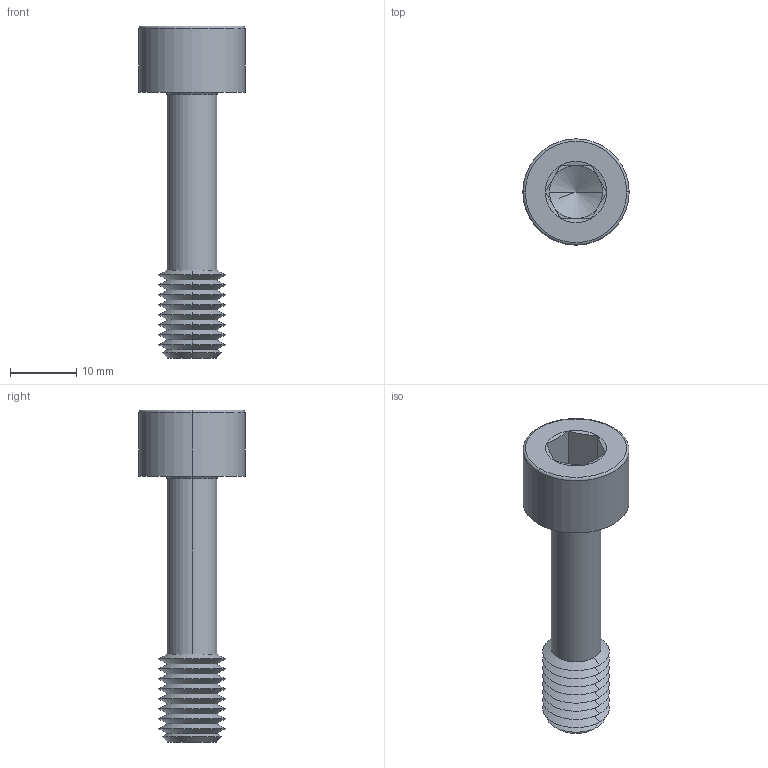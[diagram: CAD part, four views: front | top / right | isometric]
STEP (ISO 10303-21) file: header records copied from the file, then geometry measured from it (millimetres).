
FILE_DESCRIPTION (( 'STEP AP203' ), '1' );
FILE_NAME ('P0154.100-040-BL.step', '2024-06-17T11:34:23', ( '' ), ( '' ), 'SwSTEP 2.0', 'SolidWorks 2019', '' );
FILE_SCHEMA (( 'CONFIG_CONTROL_DESIGN' ));
Length unit declared in the file: millimetre
Products named in the file (1): P0154.100-040-BL
Bounding box: 16 x 16 x 50 mm (x, y, z)
Volume: 3493.9 mm3; surface area: 2457.2 mm2
Topology: 1 solids, 1 shells, 67 faces, 136 edges, 71 vertices
Faces by surface type: cone 44, plane 15, torus 4, cylinder 4
Entity records: 1791 total; most frequent: DIRECTION 332, CARTESIAN_POINT 303, ORIENTED_EDGE 268, AXIS2_PLACEMENT_3D 136, EDGE_CURVE 134, VERTEX_POINT 71, EDGE_LOOP 69, CIRCLE 68
